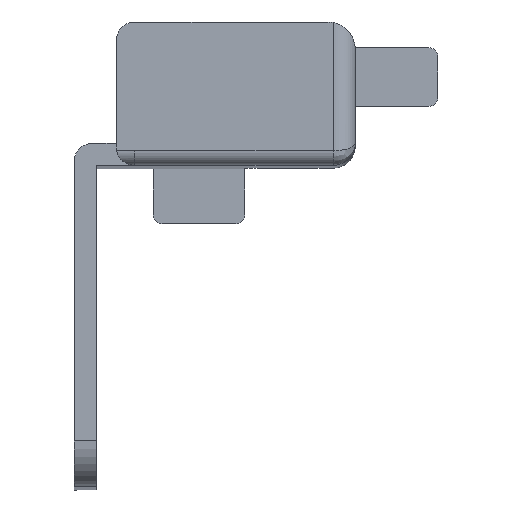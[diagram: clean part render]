
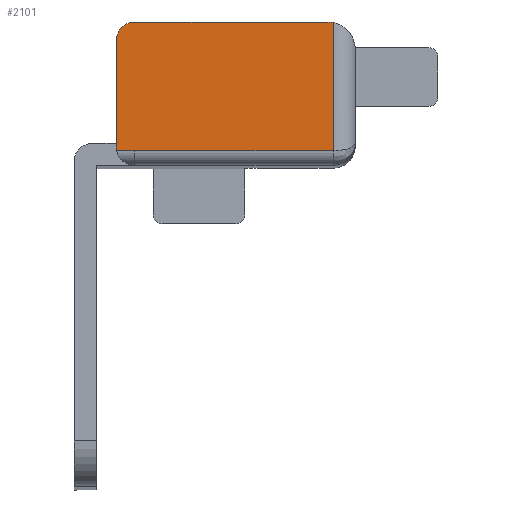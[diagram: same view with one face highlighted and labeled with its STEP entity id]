
A CAD part, top view. The second image highlights one B-rep face of the part: STEP entity #2101.
In plain terms, the highlighted planar face has unit normal (0, 0, 1).
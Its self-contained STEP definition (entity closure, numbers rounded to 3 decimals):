
#3 = AXIS2_PLACEMENT_3D ( 'NONE', #1989, #1870, #1808 ) ;
#21 = EDGE_CURVE ( 'NONE', #1972, #574, #1415, .T. ) ;
#29 = VERTEX_POINT ( 'NONE', #643 ) ;
#40 = CARTESIAN_POINT ( 'NONE',  ( -1.2, -8.413, 106.46 ) ) ;
#43 = DIRECTION ( 'NONE',  ( 0., -1., 0. ) ) ;
#48 = CARTESIAN_POINT ( 'NONE',  ( 0., 3.6, 106.46 ) ) ;
#118 = VECTOR ( 'NONE', #43, 1000. ) ;
#127 = CARTESIAN_POINT ( 'NONE',  ( -12., 10.6, 106.46 ) ) ;
#159 = ORIENTED_EDGE ( 'NONE', *, *, #21, .F. ) ;
#189 = CIRCLE ( 'NONE', #939, 1.5 ) ;
#194 = CARTESIAN_POINT ( 'NONE',  ( 0., -20.6, 106.46 ) ) ;
#205 = CARTESIAN_POINT ( 'NONE',  ( -1.2, 3.6, 106.46 ) ) ;
#212 = CARTESIAN_POINT ( 'NONE',  ( -1.5, 9.1, 106.46 ) ) ;
#240 = CARTESIAN_POINT ( 'NONE',  ( -1.2, 10.57, 106.46 ) ) ;
#320 = EDGE_CURVE ( 'NONE', #742, #29, #559, .T. ) ;
#327 = ORIENTED_EDGE ( 'NONE', *, *, #1857, .F. ) ;
#475 = CARTESIAN_POINT ( 'NONE',  ( 2., 3.6, 106.46 ) ) ;
#478 = DIRECTION ( 'NONE',  ( -1., 0., 0. ) ) ;
#505 = VECTOR ( 'NONE', #734, 1000. ) ;
#507 = CARTESIAN_POINT ( 'NONE',  ( -12., 3.6, 106.46 ) ) ;
#520 = LINE ( 'NONE', #40, #118 ) ;
#559 = LINE ( 'NONE', #776, #505 ) ;
#574 = VERTEX_POINT ( 'NONE', #1863 ) ;
#643 = CARTESIAN_POINT ( 'NONE',  ( -1.5, 10.6, 106.46 ) ) ;
#648 = VERTEX_POINT ( 'NONE', #507 ) ;
#650 = VERTEX_POINT ( 'NONE', #1840 ) ;
#670 = EDGE_CURVE ( 'NONE', #826, #791, #520, .T. ) ;
#678 = ORIENTED_EDGE ( 'NONE', *, *, #670, .F. ) ;
#734 = DIRECTION ( 'NONE',  ( 1., 0., 0. ) ) ;
#742 = VERTEX_POINT ( 'NONE', #127 ) ;
#765 = EDGE_LOOP ( 'NONE', ( #2077, #159, #1573, #327, #678, #1889, #1101, #1304 ) ) ;
#776 = CARTESIAN_POINT ( 'NONE',  ( -18., 10.6, 106.46 ) ) ;
#791 = VERTEX_POINT ( 'NONE', #205 ) ;
#826 = VERTEX_POINT ( 'NONE', #240 ) ;
#830 = DIRECTION ( 'NONE',  ( 0., 0., -1. ) ) ;
#939 = AXIS2_PLACEMENT_3D ( 'NONE', #212, #1395, #1577 ) ;
#986 = EDGE_CURVE ( 'NONE', #648, #1972, #1565, .T. ) ;
#996 = CARTESIAN_POINT ( 'NONE',  ( -13., -1.245, 106.46 ) ) ;
#1051 = DIRECTION ( 'NONE',  ( -1., 0., 0. ) ) ;
#1061 = DIRECTION ( 'NONE',  ( 0., -1., 0. ) ) ;
#1101 = ORIENTED_EDGE ( 'NONE', *, *, #320, .F. ) ;
#1238 = VECTOR ( 'NONE', #1061, 1000. ) ;
#1250 = CIRCLE ( 'NONE', #3, 1. ) ;
#1259 = EDGE_CURVE ( 'NONE', #650, #574, #1900, .T. ) ;
#1304 = ORIENTED_EDGE ( 'NONE', *, *, #2038, .T. ) ;
#1316 = AXIS2_PLACEMENT_3D ( 'NONE', #1959, #830, #1824 ) ;
#1378 = LINE ( 'NONE', #48, #1600 ) ;
#1395 = DIRECTION ( 'NONE',  ( 0., 0., 1. ) ) ;
#1415 = CIRCLE ( 'NONE', #1316, 1. ) ;
#1422 = DIRECTION ( 'NONE',  ( 0., 0., -1. ) ) ;
#1565 = LINE ( 'NONE', #475, #1982 ) ;
#1573 = ORIENTED_EDGE ( 'NONE', *, *, #986, .F. ) ;
#1577 = DIRECTION ( 'NONE',  ( 0., -1., 0. ) ) ;
#1600 = VECTOR ( 'NONE', #1051, 1000. ) ;
#1668 = AXIS2_PLACEMENT_3D ( 'NONE', #194, #1422, #1743 ) ;
#1743 = DIRECTION ( 'NONE',  ( 1., 0., 0. ) ) ;
#1808 = DIRECTION ( 'NONE',  ( 1., 0., 0. ) ) ;
#1824 = DIRECTION ( 'NONE',  ( 1., 0., 0. ) ) ;
#1840 = CARTESIAN_POINT ( 'NONE',  ( -13., 9.6, 106.46 ) ) ;
#1857 = EDGE_CURVE ( 'NONE', #791, #648, #1378, .T. ) ;
#1860 = CARTESIAN_POINT ( 'NONE',  ( -12.98, 3.6, 106.46 ) ) ;
#1863 = CARTESIAN_POINT ( 'NONE',  ( -13., 3.8, 106.46 ) ) ;
#1870 = DIRECTION ( 'NONE',  ( 0., 0., 1. ) ) ;
#1873 = PLANE ( 'NONE',  #1668 ) ;
#1889 = ORIENTED_EDGE ( 'NONE', *, *, #1902, .T. ) ;
#1900 = LINE ( 'NONE', #996, #1238 ) ;
#1902 = EDGE_CURVE ( 'NONE', #826, #29, #189, .T. ) ;
#1959 = CARTESIAN_POINT ( 'NONE',  ( -12., 3.8, 106.46 ) ) ;
#1972 = VERTEX_POINT ( 'NONE', #1860 ) ;
#1982 = VECTOR ( 'NONE', #478, 1000. ) ;
#1989 = CARTESIAN_POINT ( 'NONE',  ( -12., 9.6, 106.46 ) ) ;
#2038 = EDGE_CURVE ( 'NONE', #742, #650, #1250, .T. ) ;
#2071 = FACE_OUTER_BOUND ( 'NONE', #765, .T. ) ;
#2077 = ORIENTED_EDGE ( 'NONE', *, *, #1259, .T. ) ;
#2101 = ADVANCED_FACE ( 'NONE', ( #2071 ), #1873, .F. ) ;
